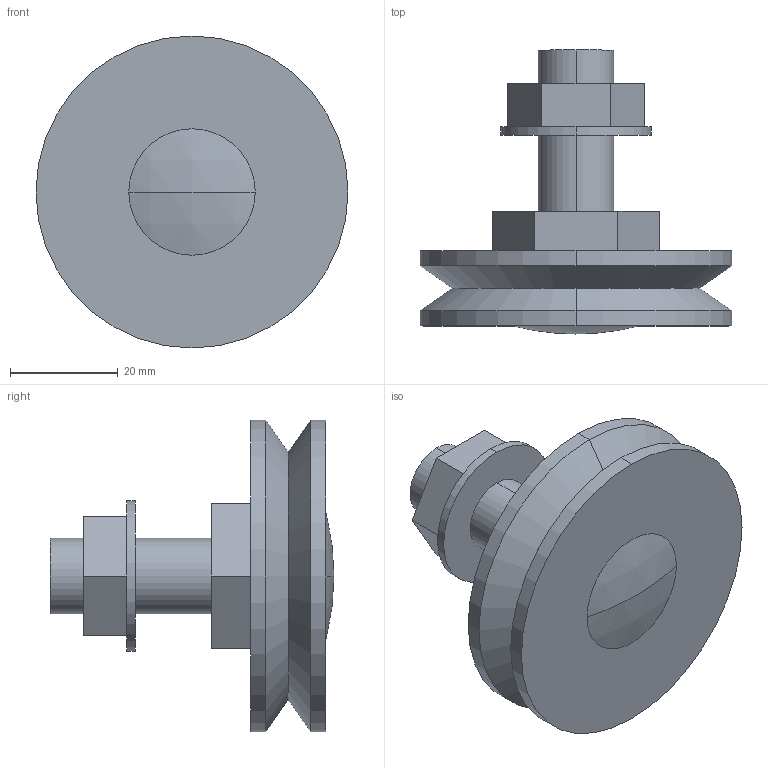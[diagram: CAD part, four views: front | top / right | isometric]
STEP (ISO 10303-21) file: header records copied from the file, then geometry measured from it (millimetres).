
FILE_DESCRIPTION(('STEP AP203'),'1');
FILE_NAME('glj_580_c_ns.stp','2021-09-29T05:40:56',('TraceParts'),('TraceParts S.A.'),'Spatial InterOp 3D',' ',' ');
FILE_SCHEMA(('CONFIG_CONTROL_DESIGN'));
Length unit declared in the file: millimetre
Products named in the file (1): 1
Bounding box: 58 x 52.8 x 58 mm (x, y, z)
Volume: 45182.1 mm3; surface area: 11954.5 mm2
Topology: 1 solids, 1 shells, 35 faces, 76 edges, 49 vertices
Faces by surface type: plane 19, cylinder 10, cone 4, sphere 2
Entity records: 1000 total; most frequent: DIRECTION 174, CARTESIAN_POINT 161, ORIENTED_EDGE 152, EDGE_CURVE 76, AXIS2_PLACEMENT_3D 62, LINE 50, VECTOR 50, VERTEX_POINT 49
